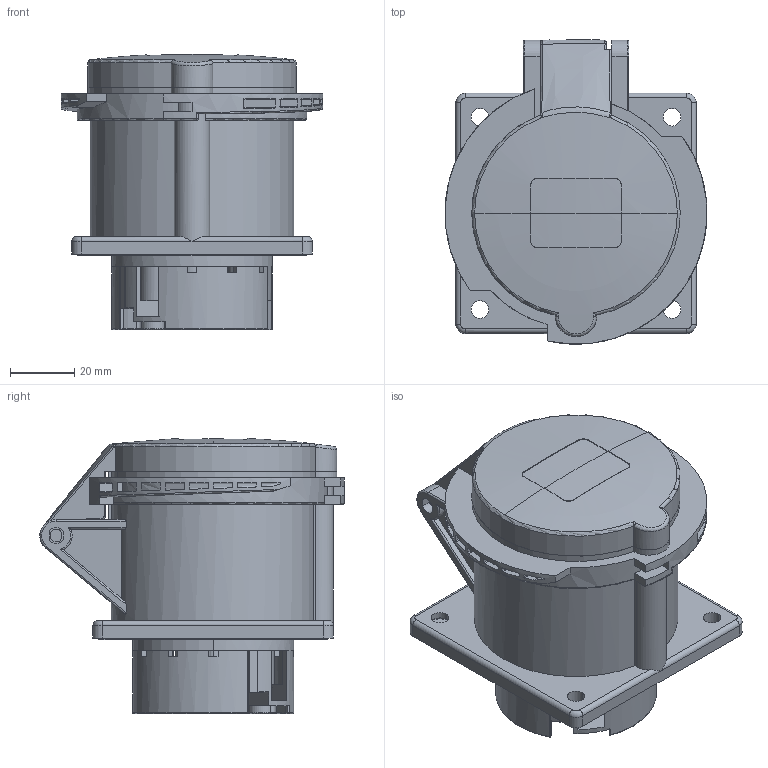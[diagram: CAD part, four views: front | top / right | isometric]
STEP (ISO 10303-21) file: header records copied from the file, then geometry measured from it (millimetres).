
FILE_DESCRIPTION(('FreeCAD Model'),'2;1');
FILE_NAME('Open CASCADE Shape Model','2026-02-04T10:32:59',(''),(''), 'Open CASCADE STEP processor 7.8','FreeCAD','Unknown');
FILE_SCHEMA(('AUTOMOTIVE_DESIGN { 1 0 10303 214 1 1 1 1 }'));
Length unit declared in the file: millimetre
Products named in the file (5): TL3R32432; Tampa; Tomada; Terminais; Base interna
Assembly tree (4 placements, depth 2):
  TL3R32432
    Tampa
    Tomada
    Terminais
    Base interna
Bounding box: 81.7 x 94.94 x 85.83 mm (x, y, z)
Volume: 216125.4 mm3; surface area: 67718.9 mm2
Topology: 4 solids, 4 shells, 669 faces, 1825 edges, 1196 vertices
Faces by surface type: plane 358, cylinder 248, torus 32, bspline 16, sphere 9, cone 6
Entity records: 24833 total; most frequent: CARTESIAN_POINT 7712, ORIENTED_EDGE 3646, DIRECTION 3469, EDGE_CURVE 1823, AXIS2_PLACEMENT_3D 1220, VERTEX_POINT 1196, LINE 1029, VECTOR 1029
